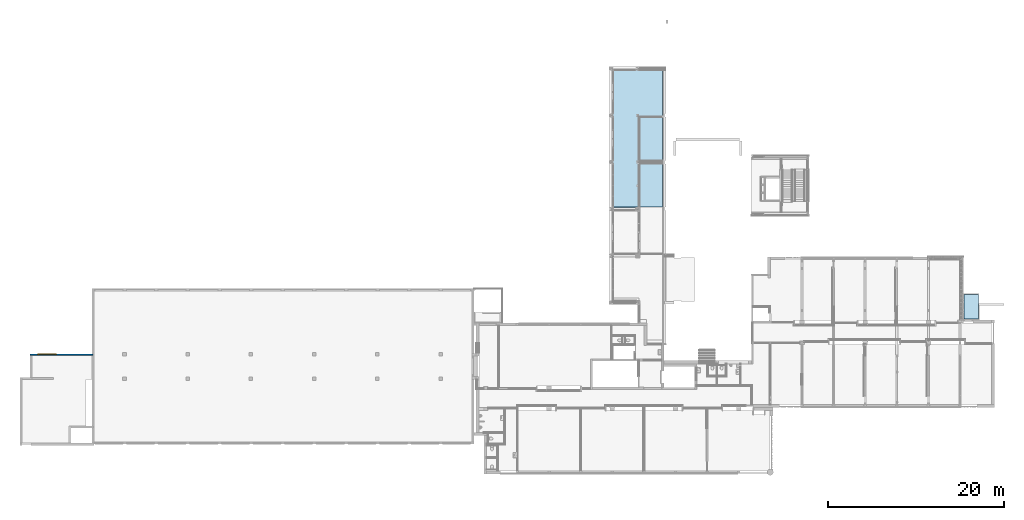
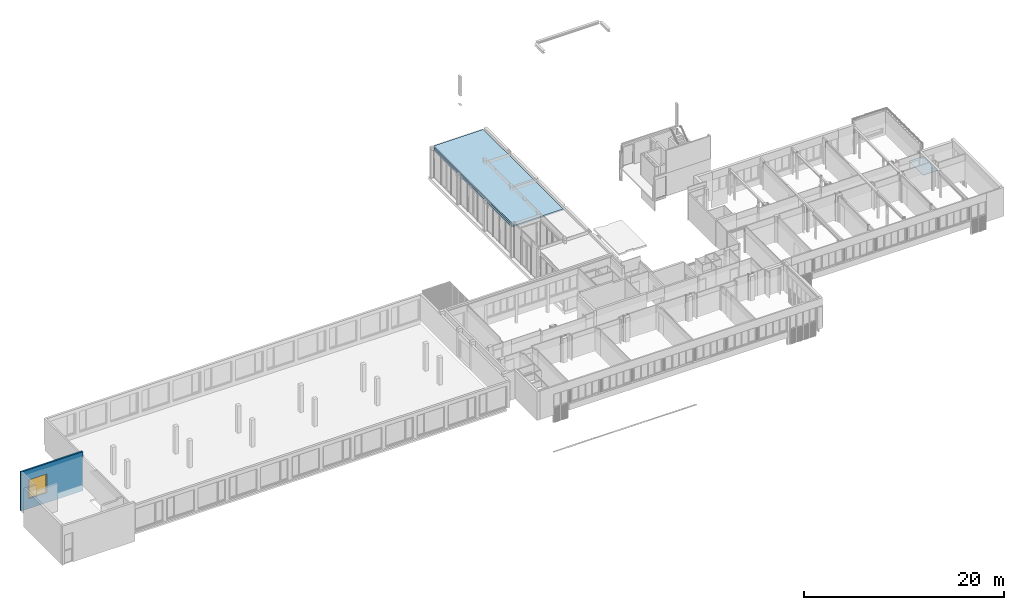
# One storey, part 9 of 99: 3 slabs, 1 door, 1 wall, 1 opening, 2 elements without a shape of their own.
"""IFC2X3 building model written with IfcOpenShell, lengths in millimetres."""

from ifc_helpers import new_model, entity, si_unit, converted_unit, derived_unit, money_unit, direction, frame, origin_with_axes, place, context, subcontext, project, spatial, faceted_brep, source, transform, mapped, material, type_object, type_shapes, element, fill, aggregate, save


model = new_model("IFC2X3")

# Units and contexts
model_context = context("Model", 3, precision=0.01, world=origin_with_axes(), true_north=direction((0.0, 1.0)))
body_context = subcontext(model_context, "Body", "Model", "MODEL_VIEW")
ifc_project = project(units=[si_unit("LENGTHUNIT", "METRE", prefix="MILLI"), si_unit("AREAUNIT", "SQUARE_METRE"), si_unit("VOLUMEUNIT", "CUBIC_METRE"), converted_unit("PLANEANGLEUNIT", "DEGREE", entity("IfcPlaneAngleMeasure", 0.0174532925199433), si_unit("PLANEANGLEUNIT", "RADIAN"), dimensions=[0, 0, 0, 0, 0, 0, 0]), money_unit("EUR"), converted_unit("TIMEUNIT", "Year", entity("IfcTimeMeasure", 31557600.0), si_unit("TIMEUNIT", "SECOND"), dimensions=[0, 0, 1, 0, 0, 0, 0]), si_unit("MASSUNIT", "GRAM", prefix="KILO"), si_unit("THERMODYNAMICTEMPERATUREUNIT", "DEGREE_CELSIUS"), si_unit("LUMINOUSINTENSITYUNIT", "LUMEN"), si_unit("ENERGYUNIT", "JOULE", prefix="MEGA"), derived_unit("THERMALCONDUCTANCEUNIT", [(si_unit("POWERUNIT", "WATT"), 1), (si_unit("LENGTHUNIT", "METRE"), -1), (si_unit("THERMODYNAMICTEMPERATUREUNIT", "KELVIN"), -1)]), derived_unit("SPECIFICHEATCAPACITYUNIT", [(si_unit("ENERGYUNIT", "JOULE"), 1), (si_unit("MASSUNIT", "GRAM", prefix="KILO"), -1), (si_unit("THERMODYNAMICTEMPERATUREUNIT", "KELVIN"), -1)]), derived_unit("MASSDENSITYUNIT", [(si_unit("MASSUNIT", "GRAM", prefix="KILO"), 1), (si_unit("VOLUMEUNIT", "CUBIC_METRE"), -1)])], contexts=[model_context])

# Site, building, storey
site_placement = place(None, origin_with_axes())
site = spatial("IfcSite", under=ifc_project, at=site_placement, Name="Site", CompositionType="ELEMENT")
building_placement = place(site_placement, origin_with_axes())
building = spatial("IfcBuilding", under=site, at=building_placement, Name="Naam gebouw", CompositionType="ELEMENT")
storey_placement = place(building_placement, frame((0.0, 0.0, 7650.0), z_axis=(0.0, 0.0, 1.0), x_axis=(1.0, 0.0, 0.0)))
storey = spatial("IfcBuildingStorey", under=building, at=storey_placement, Name="2e verdieping N", CompositionType="ELEMENT", Elevation=7650.0)

# Slab
ifc_material_1 = material(Name="Metaal - Staal C")
slab_type_1 = type_object("IfcSlabType", Name="Metaal - Staal C 40", PredefinedType="NOTDEFINED")
slab_1_placement = place(storey_placement, frame((56124.65277777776, 23550.9124251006, 0.0), z_axis=(0.0, 0.0, 1.0), x_axis=(1.0, 0.0, 0.0)))
element("IfcSlab", 1, at=slab_1_placement, inside=storey, type_object=slab_type_1, material=ifc_material_1, Name="_Vloer-x", PredefinedType="NOTDEFINED", context=body_context, shape_type="Brep", body=[
    faceted_brep([(0.0, 0.0, 0.0), (0.0, 0.0, -40.00000000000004), (-1694.652777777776, 0.0, -40.00000000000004), (-1694.652777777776, 0.0, 0.0), (0.0, -2819.999999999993, 0.0), (0.0, -2819.999999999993, -40.00000000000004), (-1694.652777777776, -2819.999999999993, -40.00000000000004), (-1694.652777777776, -2819.999999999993, 0.0)], [[[0, 1, 2, 3]], [[4, 5, 1, 0]], [[2, 1, 5, 6]], [[3, 2, 6, 7]], [[4, 0, 3, 7]], [[7, 6, 5, 4]]]),
])

# Roof, slab
roof_1_placement = place(storey_placement, frame((0.0, 0.0, -7650.0), z_axis=(0.0, 0.0, 1.0), x_axis=(1.0, 0.0, 0.0)))
roof_1 = element("IfcRoof", 2, at=roof_1_placement, inside=storey, Name="Basic Roof:27_3B_beton 300mm", ObjectType="Basic Roof:27_3B_beton 300mm", ShapeType="NOTDEFINED")
ifc_material_2 = material(Name="beton")
slab_type_2 = type_object("IfcSlabType", Name="beton 300", PredefinedType="ROOF")
slab_2_placement = place(roof_1_placement, frame((20141.00000005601, 41313.41242633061, 7550.000000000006), z_axis=(0.0, 0.0, 1.0), x_axis=(-1.0, 0.0, 0.0)))
slab_2 = element("IfcSlab", 3, at=slab_2_placement, type_object=slab_type_2, material=ifc_material_2, Name="Basic Roof:27_3B_beton 300mm", PredefinedType="ROOF", context=body_context, shape_type="Brep", body=[
    faceted_brep([(-5.072919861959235e-08, -7812.5, 299.9999999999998), (-5.072919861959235e-08, -7812.5, 0.0), (5696.369470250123, -7812.5, 0.0), (5696.369470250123, -7812.5, 299.9999999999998), (1.08933306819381e-07, 7812.500000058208, 300.0000000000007), (1.08933306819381e-07, 7812.500000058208, 0.0), (5696.369470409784, 7812.5, 0.0), (5696.369470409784, 7812.5, 300.0000000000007)], [[[0, 1, 2, 3]], [[4, 5, 1, 0]], [[2, 1, 5, 6]], [[3, 2, 6, 7]], [[4, 0, 3, 7]], [[7, 6, 5, 4]]]),
])
aggregate(roof_1, [slab_2])

roof_2_placement = place(storey_placement, frame((0.0, 0.0, -7650.0), z_axis=(0.0, 0.0, 1.0), x_axis=(1.0, 0.0, 0.0)))
roof_2 = element("IfcRoof", 4, at=roof_2_placement, inside=storey, Name="Basic Roof:NLRS_27_RO_dakleer iso 164 2-2-160_gen", ObjectType="Basic Roof:NLRS_27_RO_dakleer iso 164 2-2-160_gen", ShapeType="NOTDEFINED")
ifc_material_3 = material(Name="IFC Building Material")
slab_type_3 = type_object("IfcSlabType", Name="IFC Building Material 164", PredefinedType="ROOF")
slab_3_placement = place(roof_2_placement, frame((20141.00000008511, 41130.91242633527, 7849.999999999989), z_axis=(0.0, 0.0, 1.0), x_axis=(-1.0, 0.0, 0.0)))
slab_3 = element("IfcSlab", 5, at=slab_3_placement, type_object=slab_type_3, material=ifc_material_3, Name="Basic Roof:NLRS_27_RO_dakleer iso 164 2-2-160_gen", PredefinedType="ROOF", context=body_context, shape_type="Brep", body=[
    faceted_brep([(-5.259437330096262e-08, -7994.999999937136, 163.9999999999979), (-5.259437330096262e-08, -7994.999999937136, 0.0), (5696.369470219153, -7994.999999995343, 0.0), (5696.369470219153, -7994.999999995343, 163.9999999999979), (1.107984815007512e-07, 7995.000000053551, 163.9999999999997), (1.107984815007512e-07, 7995.000000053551, 0.0), (5696.36947041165, 7994.999999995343, 0.0), (5696.36947041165, 7994.999999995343, 163.9999999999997)], [[[0, 1, 2, 3]], [[4, 5, 1, 0]], [[2, 1, 5, 6]], [[3, 2, 6, 7]], [[4, 0, 3, 7]], [[7, 6, 5, 4]]]),
])
aggregate(roof_2, [slab_3])

# Wall, opening, door
ifc_material_4 = material(Name="ALG - CONSTRUCTIEF")
wall_type = type_object("IfcWallType", Name="ALG - CONSTRUCTIEF 200", PredefinedType="NOTDEFINED")
wall_placement = place(storey_placement, frame((-44750.00000008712, 16690.57502437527, -1200.0), z_axis=(0.0, 0.0, 1.0), x_axis=(-1.0, 0.0, 0.0)))
wall = element("IfcWall", 6, at=wall_placement, inside=storey, type_object=wall_type, material=ifc_material_4, Name="_Wand-x", context=body_context, shape_type="Brep", body=[
    faceted_brep([(8.881784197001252e-10, 100.0000000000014, 4760.000000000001), (7149.999999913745, 99.99999993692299, 4760.000000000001), (7149.999999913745, 99.99999993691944, 0.0), (8.881784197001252e-10, 100.0000000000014, 0.0), (6253.618601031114, 99.99999994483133, 1200.0), (6253.618601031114, 99.99999994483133, 3499.999999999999), (4163.618565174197, 99.99999996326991, 3499.999999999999), (4163.618565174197, 99.99999996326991, 1200.0), (-8.810729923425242e-10, -100.0000000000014, 4760.000000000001), (7149.999999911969, -100.0000000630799, 4760.000000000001), (7149.999999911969, -100.0000000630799, 740.0000000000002), (7149.999999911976, -100.0000000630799, 0.0), (-8.810729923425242e-10, -100.0000000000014, 0.0), (6253.618601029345, -100.0000000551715, 1200.0), (6253.618601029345, -100.0000000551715, 3499.999999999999), (4163.618565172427, -100.0000000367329, 3499.999999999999), (4163.618565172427, -100.0000000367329, 1200.0)], [[[0, 1, 2, 3], [4, 5, 6, 7]], [[8, 9, 1, 0]], [[1, 9, 10, 11, 2]], [[3, 2, 11, 12]], [[3, 12, 8, 0]], [[13, 14, 5, 4]], [[14, 15, 6, 5]], [[15, 16, 7, 6]], [[16, 13, 4, 7]], [[10, 9, 8, 12, 11], [13, 16, 15, 14]]]),
])
opening_placement = place(wall_placement, frame((5208.618583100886, 4.595079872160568e-08, 1200.0), z_axis=(0.0, 0.0, 1.0), x_axis=(1.0, 0.0, 0.0)))
opening = element("IfcOpeningElement", 7, at=opening_placement, cuts=wall, Name="_Merk-x", context=body_context, shape_type="Brep", body=[
    faceted_brep([(1045.000017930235, 101.0000000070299, 2299.999999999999), (1045.000017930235, 101.0000000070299, 0.0), (-1045.000017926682, 101.0000000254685, 0.0), (-1045.000017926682, 101.0000000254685, 2299.999999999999), (1045.000017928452, -101.0000000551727, 2299.999999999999), (1045.000017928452, -101.0000000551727, 0.0), (-1045.000017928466, -101.0000000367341, 0.0), (-1045.000017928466, -101.0000000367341, 2299.999999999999)], [[[0, 1, 2, 3]], [[4, 5, 1, 0]], [[5, 6, 2, 1]], [[6, 7, 3, 2]], [[7, 4, 0, 3]], [[6, 5, 4, 7]]]),
])
door_style = type_object("IfcDoorStyle", Name="D2 27", ConstructionType="NOTDEFINED", OperationType="DOUBLE_DOOR_SINGLE_SWING", ParameterTakesPrecedence=False, Sizeable=False)
shared_shape = source(origin_with_axes(), body_context, "Body", "Brep", [
    faceted_brep([(-978.000017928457, -40.0, 0.0), (-978.0000179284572, -39.99999999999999, 2233.0), (-978.0000179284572, -114.0, 2233.0), (-978.0000179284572, -114.0, 0.0), (-995.0000179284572, -40.0, 2233.0), (-995.0000179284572, -40.0, 0.0), (-995.0000179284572, 0.0, 2233.0), (-1045.000017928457, 0.0, 2233.0), (-1045.000017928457, -114.0, 2233.0), (-1045.000017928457, -114.0, 0.0), (-1045.000017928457, 0.0, 0.0), (-995.0000179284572, 0.0, 0.0)], [[[0, 1, 2, 3]], [[4, 1, 0, 5]], [[4, 6, 7, 8, 2, 1]], [[3, 2, 8, 9]], [[5, 0, 3, 9, 10, 11]], [[6, 4, 5, 11]], [[6, 11, 10, 7]], [[10, 9, 8, 7]]]),
    faceted_brep([(995.0000179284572, -40.0, 2233.0), (978.0000179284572, -39.99999999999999, 2233.0), (978.0000179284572, -114.0, 2233.0), (1045.000017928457, -114.0, 2233.0), (1045.000017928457, 0.0, 2233.0), (995.0000179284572, 0.0, 2233.0), (995.0000179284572, -40.0, 0.0), (978.0000179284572, -40.0, 0.0), (978.0000179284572, -114.0, 0.0), (1045.000017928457, -114.0, 0.0), (1045.000017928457, 0.0, 0.0), (995.0000179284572, 0.0, 0.0)], [[[0, 1, 2, 3, 4, 5]], [[1, 0, 6, 7]], [[1, 7, 8, 2]], [[3, 2, 8, 9]], [[4, 3, 9, 10]], [[11, 5, 4, 10]], [[0, 5, 11, 6]], [[6, 11, 10, 9, 8, 7]]]),
    faceted_brep([(-995.0000179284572, 0.0, 2250.0), (-995.0000179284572, 0.0, 2233.0), (-1045.000017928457, 0.0, 2233.0), (-1045.000017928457, 0.0, 2300.0), (1045.000017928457, 0.0, 2300.0), (1045.000017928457, 0.0, 2233.0), (995.0000179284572, 0.0, 2233.0), (995.0000179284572, 0.0, 2250.0), (-995.0000179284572, -40.0, 2250.0), (-995.0000179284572, -40.0, 2233.0), (-978.0000179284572, -39.99999999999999, 2233.0), (-978.0000179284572, -114.0, 2233.0), (-1045.000017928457, -114.0, 2233.0), (-1045.000017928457, -114.0, 2300.0), (1045.000017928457, -114.0, 2300.0), (1045.000017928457, -114.0, 2233.0), (995.0000179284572, -40.0, 2233.0), (978.0000179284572, -114.0, 2233.0), (978.0000179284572, -39.99999999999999, 2233.0), (995.0000179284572, -40.0, 2250.0)], [[[0, 1, 2, 3, 4, 5, 6, 7]], [[1, 0, 8, 9]], [[9, 10, 11, 12, 2, 1]], [[2, 12, 13, 3]], [[3, 13, 14, 4]], [[4, 14, 15, 5]], [[16, 6, 5, 15, 17, 18]], [[7, 6, 16, 19]], [[0, 7, 19, 8]], [[16, 18, 10, 9, 8, 19]], [[10, 18, 17, 11]], [[17, 15, 14, 13, 12, 11]]]),
    faceted_brep([(995.0000179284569, 0.0, 0.0), (995.0000179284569, -40.0, 0.0), (0.0, -40.0, 0.0), (0.0, 0.0, 0.0), (995.0000179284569, 0.0, 2250.0), (995.0000179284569, -40.00000000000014, 2250.0), (0.0, -40.00000000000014, 2250.0), (0.0, 0.0, 2250.0)], [[[0, 1, 2, 3]], [[4, 5, 1, 0]], [[1, 5, 6, 2]], [[3, 2, 6, 7]], [[0, 3, 7, 4]], [[7, 6, 5, 4]]]),
    faceted_brep([(-995.0000179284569, 0.0, 0.0), (0.0, 0.0, 0.0), (0.0, -40.0, 0.0), (-995.0000179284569, -40.0, 0.0), (-995.0000179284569, 0.0, 2250.0), (0.0, 0.0, 2250.0), (0.0, -40.00000000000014, 2250.0), (-995.0000179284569, -40.00000000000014, 2250.0)], [[[0, 1, 2, 3]], [[0, 4, 5, 1]], [[1, 5, 6, 2]], [[3, 2, 6, 7]], [[4, 0, 3, 7]], [[5, 4, 7, 6]]]),
])
type_shapes(door_style, [shared_shape])
door_placement = place(opening_placement, frame((1045.000017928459, 9.2192919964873e-09, 0.0), z_axis=(0.0, 0.0, 1.0), x_axis=(-1.0, 0.0, 0.0)))
door = element("IfcDoor", 8, at=door_placement, inside=storey, type_object=door_style, Name="_Merk-x", ObjectType="DOOR", OverallHeight=2300.0, OverallWidth=2090.0, context=body_context, shape_type="MappedRepresentation", body=[
    mapped(shared_shape, transform((1045.000017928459, 100.0000000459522, 0.0))),
])
fill(opening, door)

save(model, "model.ifc")
